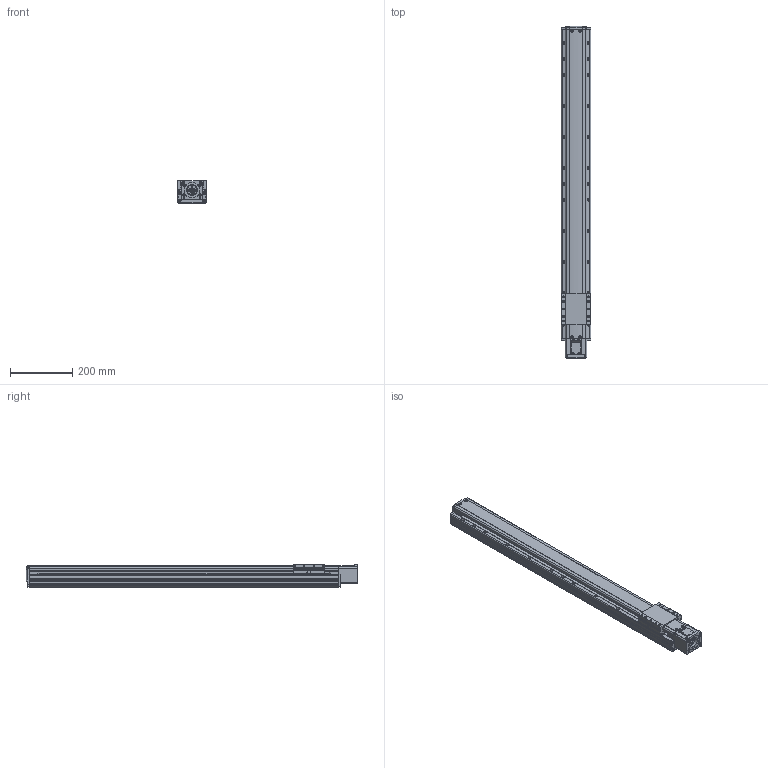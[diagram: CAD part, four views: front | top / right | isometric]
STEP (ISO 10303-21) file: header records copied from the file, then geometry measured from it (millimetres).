
FILE_DESCRIPTION(('STEP AP214'),'1');
FILE_NAME('Z:/Web/3D/PSA95/STP/PSA95-800 (3D)/PSA95ㅁㅁ-800S.stp','2014-07-03T00:50:20',(' '),(' '),'Spatial InterOp 3D',' ',' ');
FILE_SCHEMA(('automotive_design'));
Length unit declared in the file: millimetre
Products named in the file (35): BASE; RRCV; 스크루 : Round - M4.0 x 10.0; 너트 : Square - M10.0 x 220.7419; RR1500; FRCV-090; 스크루 : Round - M4.0 x 6.0; SLBL-PA90; SSFX-SAN65; CPLCV-SAN65; 스크루 : Round - M3.0 x 6.0; MTHZ-PA70/90-S60A-3; 스크루 : Socket - M4.0 x 20.0; NONE
Bounding box: 95 x 1062.5 x 74 mm (x, y, z)
Volume: 5563715.9 mm3; surface area: 586662.3 mm2
Topology: 35 solids, 69 shells, 3123 faces, 8024 edges, 5048 vertices
Faces by surface type: plane 1466, cylinder 1022, cone 399, torus 158, sphere 46, bspline 32
Entity records: 123232 total; most frequent: CARTESIAN_POINT 20395, DIRECTION 16780, ORIENTED_EDGE 15728, EDGE_CURVE 7864, AXIS2_PLACEMENT_3D 6035, VERTEX_POINT 5048, LINE 4710, VECTOR 4710
